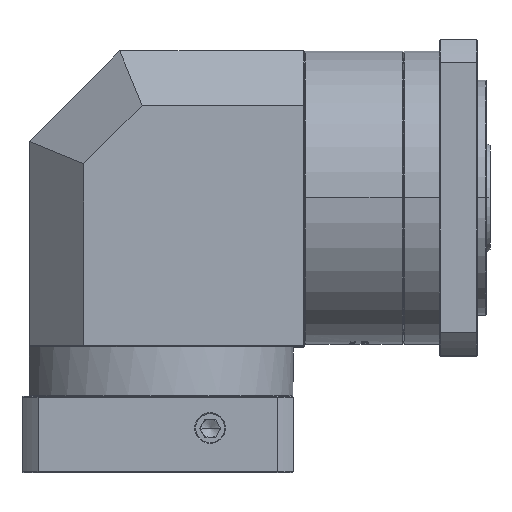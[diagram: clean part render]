
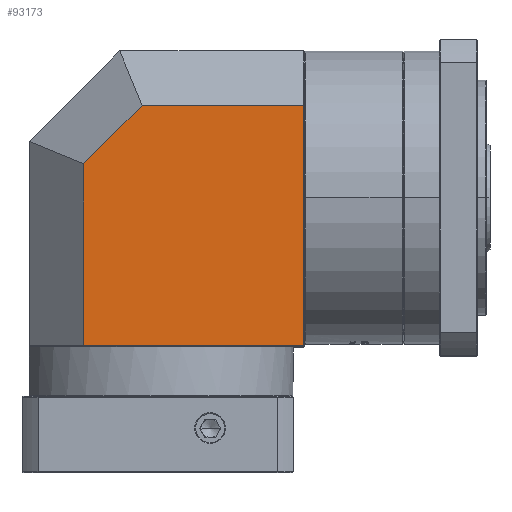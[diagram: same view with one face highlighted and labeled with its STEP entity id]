
A CAD part, top view. The second image highlights one B-rep face of the part: STEP entity #93173.
In plain terms, the highlighted planar face has unit normal (0, 0, 1).
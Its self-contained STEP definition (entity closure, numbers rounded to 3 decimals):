
#1847 = DIRECTION ( 'NONE',  ( 1., 0., 0. ) ) ;
#8852 = FACE_OUTER_BOUND ( 'NONE', #145738, .T. ) ;
#9358 = EDGE_CURVE ( 'NONE', #12123, #105810, #22334, .T. ) ;
#12123 = VERTEX_POINT ( 'NONE', #106811 ) ;
#15268 = ORIENTED_EDGE ( 'NONE', *, *, #26262, .F. ) ;
#17002 = LINE ( 'NONE', #31209, #104898 ) ;
#22334 = LINE ( 'NONE', #118539, #129964 ) ;
#26262 = EDGE_CURVE ( 'NONE', #134529, #12123, #96283, .T. ) ;
#28227 = DIRECTION ( 'NONE',  ( 0., 0., 1. ) ) ;
#31209 = CARTESIAN_POINT ( 'NONE',  ( -94.321, -143.927, 258.649 ) ) ;
#39766 = PLANE ( 'NONE',  #51538 ) ;
#41163 = VERTEX_POINT ( 'NONE', #100031 ) ;
#46273 = EDGE_CURVE ( 'NONE', #48568, #105810, #105199, .T. ) ;
#48568 = VERTEX_POINT ( 'NONE', #124917 ) ;
#49485 = EDGE_CURVE ( 'NONE', #41163, #48568, #17002, .T. ) ;
#49594 = CARTESIAN_POINT ( 'NONE',  ( -48.221, -225.177, 258.649 ) ) ;
#51538 = AXIS2_PLACEMENT_3D ( 'NONE', #61318, #28227, #131040 ) ;
#61318 = CARTESIAN_POINT ( 'NONE',  ( -48.221, -143.927, 258.649 ) ) ;
#65565 = EDGE_CURVE ( 'NONE', #134529, #41163, #121572, .T. ) ;
#67526 = ORIENTED_EDGE ( 'NONE', *, *, #65565, .T. ) ;
#79955 = VECTOR ( 'NONE', #83173, 1000. ) ;
#83173 = DIRECTION ( 'NONE',  ( 1., 0., 0. ) ) ;
#83397 = DIRECTION ( 'NONE',  ( 0., -1., 0. ) ) ;
#93173 = ADVANCED_FACE ( 'NONE', ( #8852 ), #39766, .T. ) ;
#96283 = LINE ( 'NONE', #116701, #132076 ) ;
#96499 = VECTOR ( 'NONE', #120116, 1000. ) ;
#98046 = ORIENTED_EDGE ( 'NONE', *, *, #49485, .T. ) ;
#99042 = CARTESIAN_POINT ( 'NONE',  ( -61.895, -92.177, 258.649 ) ) ;
#100031 = CARTESIAN_POINT ( 'NONE',  ( -94.321, -124.603, 258.649 ) ) ;
#104898 = VECTOR ( 'NONE', #133559, 1000. ) ;
#105199 = LINE ( 'NONE', #49594, #79955 ) ;
#105810 = VERTEX_POINT ( 'NONE', #121493 ) ;
#106811 = CARTESIAN_POINT ( 'NONE',  ( 27.379, -92.177, 258.649 ) ) ;
#116701 = CARTESIAN_POINT ( 'NONE',  ( -48.221, -92.177, 258.649 ) ) ;
#117815 = ORIENTED_EDGE ( 'NONE', *, *, #9358, .F. ) ;
#118289 = CARTESIAN_POINT ( 'NONE',  ( -61.895, -92.177, 258.649 ) ) ;
#118539 = CARTESIAN_POINT ( 'NONE',  ( 27.379, -143.927, 258.649 ) ) ;
#120116 = DIRECTION ( 'NONE',  ( -0.707, -0.707, 0. ) ) ;
#121493 = CARTESIAN_POINT ( 'NONE',  ( 27.379, -225.177, 258.649 ) ) ;
#121572 = LINE ( 'NONE', #99042, #96499 ) ;
#124917 = CARTESIAN_POINT ( 'NONE',  ( -94.321, -225.177, 258.649 ) ) ;
#129964 = VECTOR ( 'NONE', #83397, 1000. ) ;
#131040 = DIRECTION ( 'NONE',  ( 1., 0., 0. ) ) ;
#132076 = VECTOR ( 'NONE', #1847, 1000. ) ;
#133559 = DIRECTION ( 'NONE',  ( 0., -1., 0. ) ) ;
#134529 = VERTEX_POINT ( 'NONE', #118289 ) ;
#145738 = EDGE_LOOP ( 'NONE', ( #148109, #117815, #15268, #67526, #98046 ) ) ;
#148109 = ORIENTED_EDGE ( 'NONE', *, *, #46273, .T. ) ;
